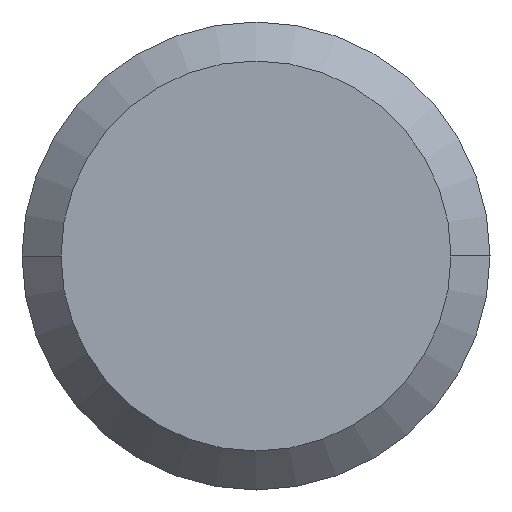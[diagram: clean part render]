
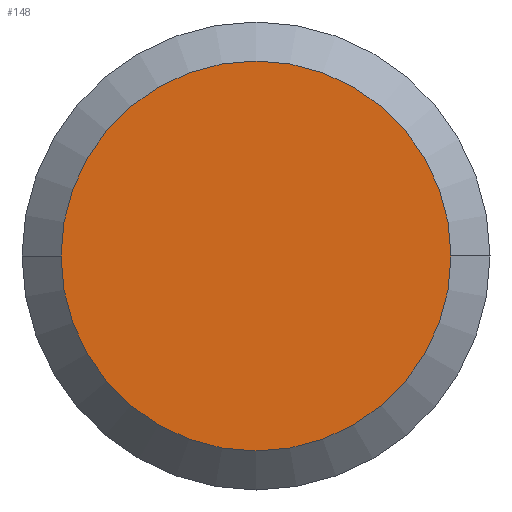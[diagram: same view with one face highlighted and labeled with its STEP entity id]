
A CAD part, left-side view. The second image highlights one B-rep face of the part: STEP entity #148.
In plain terms, the highlighted planar face has unit normal (-1, 0, 0).
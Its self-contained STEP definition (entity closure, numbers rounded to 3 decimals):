
#2 = CARTESIAN_POINT ( 'NONE',  ( -42., -2.5, 0. ) ) ;
#10 = CARTESIAN_POINT ( 'NONE',  ( -42., 0., 0. ) ) ;
#27 = DIRECTION ( 'NONE',  ( 0., -1., 0. ) ) ;
#33 = ORIENTED_EDGE ( 'NONE', *, *, #66, .F. ) ;
#60 = DIRECTION ( 'NONE',  ( 0., 1., 0. ) ) ;
#66 = EDGE_CURVE ( 'NONE', #317, #142, #237, .T. ) ;
#97 = PLANE ( 'NONE',  #410 ) ;
#113 = CARTESIAN_POINT ( 'NONE',  ( -42., 2.5, 0. ) ) ;
#142 = VERTEX_POINT ( 'NONE', #113 ) ;
#148 = ADVANCED_FACE ( 'NONE', ( #508 ), #97, .T. ) ;
#166 = CARTESIAN_POINT ( 'NONE',  ( -42., 0., 0. ) ) ;
#182 = EDGE_LOOP ( 'NONE', ( #247, #33 ) ) ;
#210 = DIRECTION ( 'NONE',  ( 0., 1., 0. ) ) ;
#237 = CIRCLE ( 'NONE', #475, 2.5 ) ;
#247 = ORIENTED_EDGE ( 'NONE', *, *, #281, .F. ) ;
#250 = CIRCLE ( 'NONE', #403, 2.5 ) ;
#276 = DIRECTION ( 'NONE',  ( -1., 0., 0. ) ) ;
#281 = EDGE_CURVE ( 'NONE', #142, #317, #250, .T. ) ;
#306 = DIRECTION ( 'NONE',  ( 1., 0., 0. ) ) ;
#317 = VERTEX_POINT ( 'NONE', #2 ) ;
#401 = CARTESIAN_POINT ( 'NONE',  ( -42., 0., 0. ) ) ;
#403 = AXIS2_PLACEMENT_3D ( 'NONE', #166, #447, #210 ) ;
#410 = AXIS2_PLACEMENT_3D ( 'NONE', #401, #276, #27 ) ;
#447 = DIRECTION ( 'NONE',  ( 1., 0., 0. ) ) ;
#475 = AXIS2_PLACEMENT_3D ( 'NONE', #10, #306, #60 ) ;
#508 = FACE_OUTER_BOUND ( 'NONE', #182, .T. ) ;
